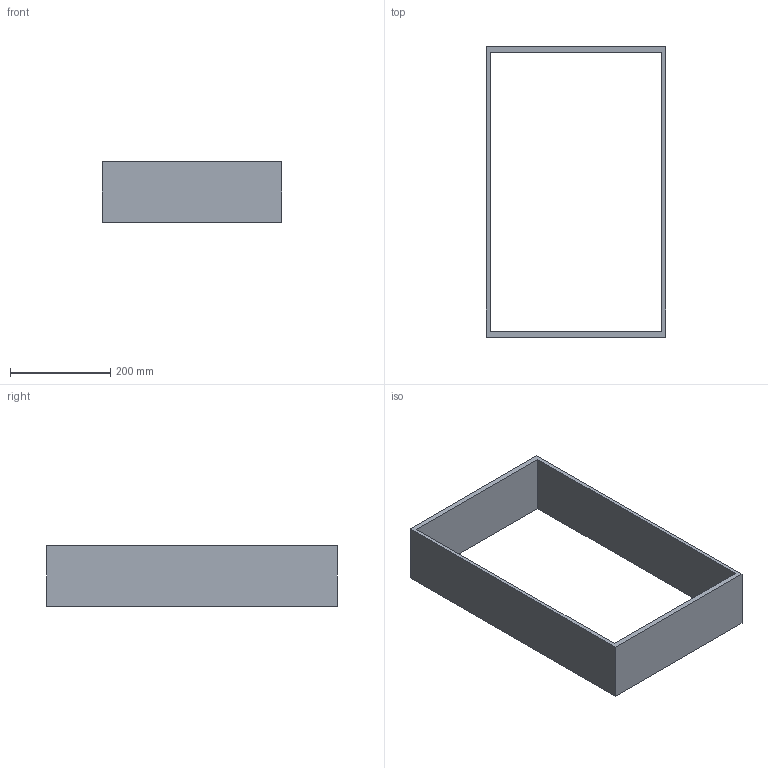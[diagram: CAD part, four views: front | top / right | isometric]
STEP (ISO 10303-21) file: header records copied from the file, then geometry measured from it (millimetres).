
FILE_DESCRIPTION (( 'STEP AP214' ), '1' );
FILE_NAME ('Vario Multi H120 NL600_B450_16 mm_Alu-Buche.step', '2010-10-08T09:47:43', ( 'grass' ), ( '' ), 'SwSTEP 2.0', 'SolidWorks 2010', '' );
FILE_SCHEMA (( 'AUTOMOTIVE_DESIGN' ));
Length unit declared in the file: millimetre
Products named in the file (1): Vario Multi H120 NL600_B450_16 mm_Alu-Buche
Bounding box: 358 x 579 x 120 mm (x, y, z)
Volume: 2014560 mm3; surface area: 474216 mm2
Topology: 1 solids, 1 shells, 10 faces, 24 edges, 16 vertices
Faces by surface type: plane 10
Entity records: 326 total; most frequent: CARTESIAN_POINT 51, ORIENTED_EDGE 48, DIRECTION 46, VECTOR 24, LINE 24, EDGE_CURVE 24, VERTEX_POINT 16, EDGE_LOOP 12
